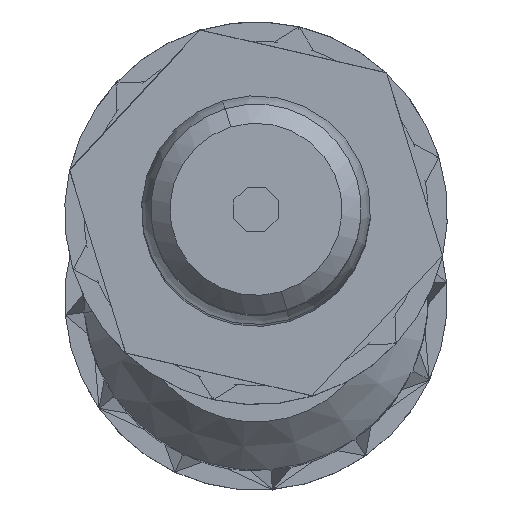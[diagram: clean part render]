
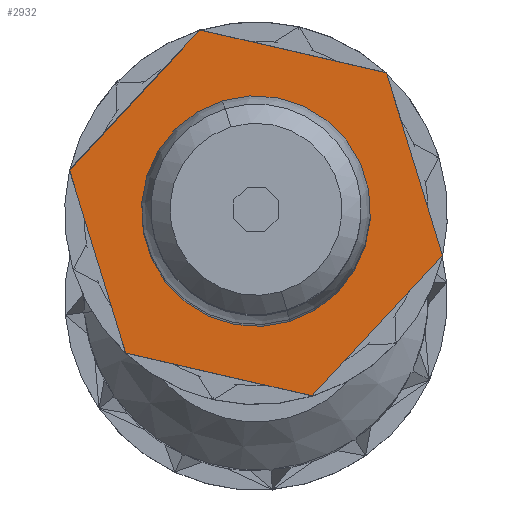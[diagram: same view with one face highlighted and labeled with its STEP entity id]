
A CAD part, top view. The second image highlights one B-rep face of the part: STEP entity #2932.
In plain terms, the highlighted planar face has unit normal (0, 0, 1).
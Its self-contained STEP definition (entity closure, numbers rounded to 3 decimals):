
#110 = VERTEX_POINT ( 'NONE', #4621 ) ;
#296 = AXIS2_PLACEMENT_3D ( 'NONE', #917, #2256, #1362 ) ;
#321 = CARTESIAN_POINT ( 'NONE',  ( -0.428, 1.04, 554. ) ) ;
#391 = CARTESIAN_POINT ( 'NONE',  ( -1.468, -1.475, 554. ) ) ;
#422 = VECTOR ( 'NONE', #5442, 1000. ) ;
#509 = LINE ( 'NONE', #2017, #4813 ) ;
#519 = FACE_OUTER_BOUND ( 'NONE', #5001, .T. ) ;
#816 = CARTESIAN_POINT ( 'NONE',  ( 0.217, -1.063, 554. ) ) ;
#917 = CARTESIAN_POINT ( 'NONE',  ( -0.105, -0.012, 554. ) ) ;
#932 = EDGE_CURVE ( 'NONE', #5509, #2722, #509, .T. ) ;
#953 = VERTEX_POINT ( 'NONE', #2490 ) ;
#964 = CARTESIAN_POINT ( 'NONE',  ( -2.055, 0.437, 554. ) ) ;
#1121 = PLANE ( 'NONE',  #1605 ) ;
#1141 = VERTEX_POINT ( 'NONE', #4546 ) ;
#1246 = DIRECTION ( 'NONE',  ( 0., 0., -1. ) ) ;
#1279 = EDGE_CURVE ( 'NONE', #1141, #5411, #5085, .T. ) ;
#1362 = DIRECTION ( 'NONE',  ( -0.293, 0.956, 0. ) ) ;
#1384 = EDGE_LOOP ( 'NONE', ( #5406, #4363 ) ) ;
#1605 = AXIS2_PLACEMENT_3D ( 'NONE', #816, #1246, #5137 ) ;
#1790 = CARTESIAN_POINT ( 'NONE',  ( 1.257, 1.452, 554. ) ) ;
#1849 = CARTESIAN_POINT ( 'NONE',  ( -1.468, -1.475, 554. ) ) ;
#1898 = CIRCLE ( 'NONE', #296, 1.1 ) ;
#2017 = CARTESIAN_POINT ( 'NONE',  ( -0.692, 1.901, 554. ) ) ;
#2023 = LINE ( 'NONE', #1849, #4288 ) ;
#2203 = DIRECTION ( 'NONE',  ( 0., 0., -1. ) ) ;
#2256 = DIRECTION ( 'NONE',  ( 0., 0., -1. ) ) ;
#2272 = EDGE_CURVE ( 'NONE', #2722, #4617, #4086, .T. ) ;
#2292 = DIRECTION ( 'NONE',  ( 0.975, -0.224, 0. ) ) ;
#2303 = DIRECTION ( 'NONE',  ( 0.681, 0.732, 0. ) ) ;
#2447 = VECTOR ( 'NONE', #2303, 1000. ) ;
#2490 = CARTESIAN_POINT ( 'NONE',  ( 1.844, -0.46, 554. ) ) ;
#2513 = LINE ( 'NONE', #1790, #3314 ) ;
#2676 = DIRECTION ( 'NONE',  ( -0.975, 0.224, 0. ) ) ;
#2722 = VERTEX_POINT ( 'NONE', #2799 ) ;
#2799 = CARTESIAN_POINT ( 'NONE',  ( -2.055, 0.437, 554. ) ) ;
#2904 = VERTEX_POINT ( 'NONE', #3272 ) ;
#2932 = ADVANCED_FACE ( 'NONE', ( #3614, #519 ), #1121, .F. ) ;
#3080 = ORIENTED_EDGE ( 'NONE', *, *, #932, .T. ) ;
#3144 = EDGE_CURVE ( 'NONE', #4617, #110, #2023, .T. ) ;
#3148 = ORIENTED_EDGE ( 'NONE', *, *, #4790, .T. ) ;
#3272 = CARTESIAN_POINT ( 'NONE',  ( 1.257, 1.452, 554. ) ) ;
#3314 = VECTOR ( 'NONE', #2676, 1000. ) ;
#3365 = ORIENTED_EDGE ( 'NONE', *, *, #2272, .T. ) ;
#3475 = EDGE_CURVE ( 'NONE', #953, #2904, #5468, .T. ) ;
#3588 = DIRECTION ( 'NONE',  ( 0.293, -0.956, 0. ) ) ;
#3614 = FACE_BOUND ( 'NONE', #1384, .T. ) ;
#3868 = ORIENTED_EDGE ( 'NONE', *, *, #3475, .T. ) ;
#3918 = LINE ( 'NONE', #4819, #2447 ) ;
#3948 = CARTESIAN_POINT ( 'NONE',  ( -0.105, -0.012, 554. ) ) ;
#4086 = LINE ( 'NONE', #964, #4423 ) ;
#4288 = VECTOR ( 'NONE', #2292, 1000. ) ;
#4363 = ORIENTED_EDGE ( 'NONE', *, *, #1279, .T. ) ;
#4399 = EDGE_CURVE ( 'NONE', #2904, #5509, #2513, .T. ) ;
#4423 = VECTOR ( 'NONE', #3588, 1000. ) ;
#4452 = ORIENTED_EDGE ( 'NONE', *, *, #4399, .T. ) ;
#4546 = CARTESIAN_POINT ( 'NONE',  ( 0.217, -1.063, 554. ) ) ;
#4598 = AXIS2_PLACEMENT_3D ( 'NONE', #3948, #2203, #5185 ) ;
#4617 = VERTEX_POINT ( 'NONE', #391 ) ;
#4621 = CARTESIAN_POINT ( 'NONE',  ( 0.481, -1.924, 554. ) ) ;
#4784 = ORIENTED_EDGE ( 'NONE', *, *, #3144, .T. ) ;
#4790 = EDGE_CURVE ( 'NONE', #110, #953, #3918, .T. ) ;
#4813 = VECTOR ( 'NONE', #5006, 1000. ) ;
#4819 = CARTESIAN_POINT ( 'NONE',  ( 0.481, -1.924, 554. ) ) ;
#4840 = CARTESIAN_POINT ( 'NONE',  ( -0.692, 1.901, 554. ) ) ;
#5001 = EDGE_LOOP ( 'NONE', ( #4784, #3148, #3868, #4452, #3080, #3365 ) ) ;
#5006 = DIRECTION ( 'NONE',  ( -0.681, -0.732, 0. ) ) ;
#5019 = CARTESIAN_POINT ( 'NONE',  ( 1.844, -0.46, 554. ) ) ;
#5085 = CIRCLE ( 'NONE', #4598, 1.1 ) ;
#5137 = DIRECTION ( 'NONE',  ( -0.293, 0.956, 0. ) ) ;
#5185 = DIRECTION ( 'NONE',  ( -0.293, 0.956, 0. ) ) ;
#5406 = ORIENTED_EDGE ( 'NONE', *, *, #5498, .T. ) ;
#5411 = VERTEX_POINT ( 'NONE', #321 ) ;
#5442 = DIRECTION ( 'NONE',  ( -0.293, 0.956, 0. ) ) ;
#5468 = LINE ( 'NONE', #5019, #422 ) ;
#5498 = EDGE_CURVE ( 'NONE', #5411, #1141, #1898, .T. ) ;
#5509 = VERTEX_POINT ( 'NONE', #4840 ) ;
